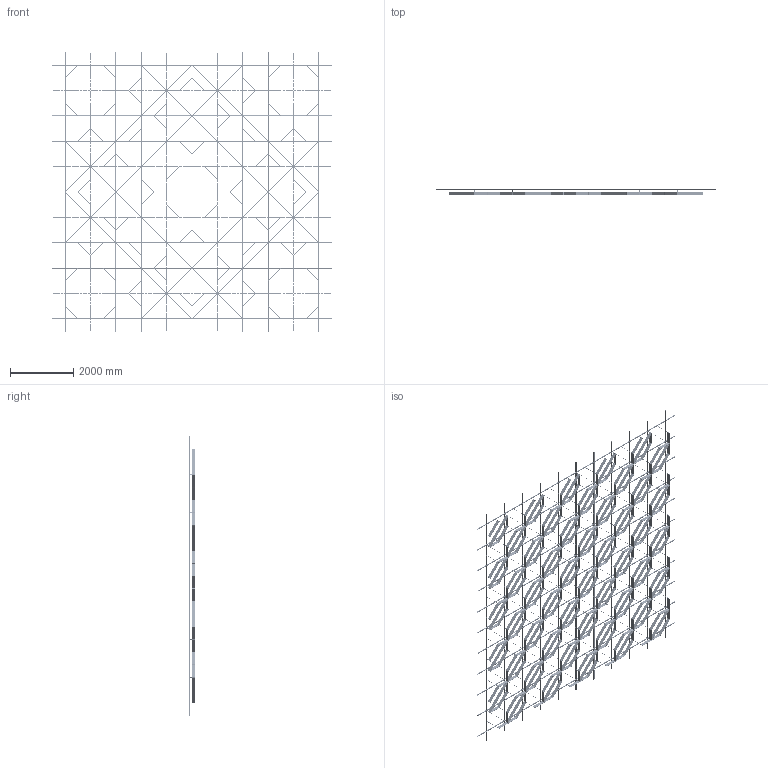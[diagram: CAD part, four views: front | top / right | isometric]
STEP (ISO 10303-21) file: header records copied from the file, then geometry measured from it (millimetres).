
FILE_DESCRIPTION (( 'STEP AP203' ), '1' );
FILE_NAME ('15 ìèäè ñ ïñ.step', '2025-11-26T11:40:56', ( '' ), ( '' ), 'SwSTEP 2.0', 'SolidWorks 2020', '' );
FILE_SCHEMA (( 'CONFIG_CONTROL_DESIGN' ));
Length unit declared in the file: millimetre
Products named in the file (5): Var15; Ñèñòåìà â çîíå 8000õ8000; 15 ìèäè ñ ïñ; SS.SEMA.2400 - Ñèìà-ïðîôèëü; SS.SEMA.2400 - Ñèìà-ïðîôèëü — îáðåçàí 1600
Assembly tree (90 placements, depth 3):
  15 ìèäè ñ ïñ
    Ñèñòåìà â çîíå 8000õ8000
      SS.SEMA.2400 - Ñèìà-ïðîôèëü  x66
      SS.SEMA.2400 - Ñèìà-ïðîôèëü — îáðåçàí 1600  x22
    Var15
Bounding box: 8800 x 205 x 8800 mm (x, y, z)
Volume: 267335075.3 mm3; surface area: 96428635.8 mm2
Topology: 1708 solids, 1708 shells, 23980 faces, 60284 edges, 39720 vertices
Faces by surface type: cylinder 14098, plane 9882
Entity records: 188391 total; most frequent: CARTESIAN_POINT 46994, ORIENTED_EDGE 27416, DIRECTION 26274, EDGE_CURVE 13708, AXIS2_PLACEMENT_3D 12888, VERTEX_POINT 9128, B_SPLINE_CURVE_WITH_KNOTS 8240, EDGE_LOOP 7986
